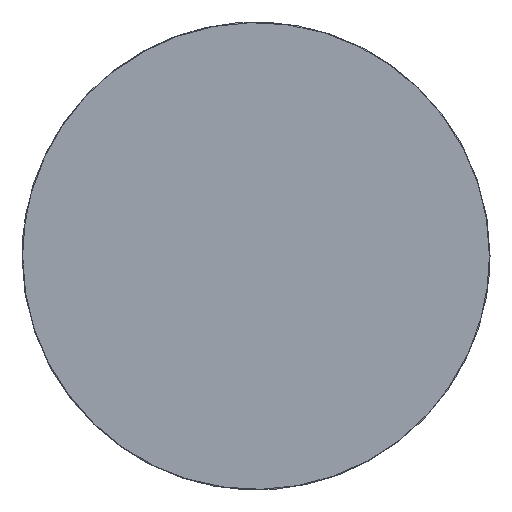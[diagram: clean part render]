
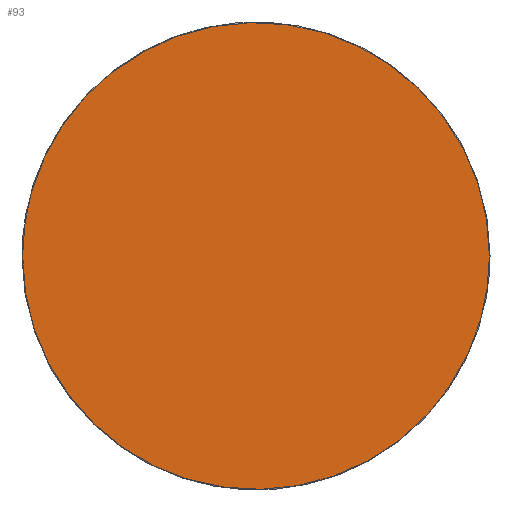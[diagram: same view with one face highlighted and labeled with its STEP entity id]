
A CAD part, top view. The second image highlights one B-rep face of the part: STEP entity #93.
In plain terms, the highlighted planar face has unit normal (0, 0, 1).
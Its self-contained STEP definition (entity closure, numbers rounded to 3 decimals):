
#33=PLANE('',#712);
#93=ADVANCED_FACE('',(#139),#33,.T.);
#139=FACE_OUTER_BOUND('',#185,.T.);
#185=EDGE_LOOP('',(#365,#366));
#365=ORIENTED_EDGE('',*,*,#477,.T.);
#366=ORIENTED_EDGE('',*,*,#484,.T.);
#477=EDGE_CURVE('',#642,#646,#578,.T.);
#484=EDGE_CURVE('',#646,#642,#582,.T.);
#578=B_SPLINE_CURVE_WITH_KNOTS('',3,(#3843,#3844,#3845,#3846,#3847,#3848,
#3849,#3850,#3851,#3852,#3853,#3854,#3855,#3856,#3857,#3858,#3859,#3860,
#3861,#3862,#3863,#3864,#3865,#3866,#3867,#3868),.UNSPECIFIED.,.F.,.F.,
(4,1,1,1,1,1,1,1,1,1,1,1,1,1,1,1,1,1,1,1,1,1,1,4),(0.,68.435,
140.983,216.556,293.739,370.922,446.495,
519.042,587.478,655.913,692.187,728.46,
766.247,804.034,842.625,881.216,900.512,
919.808,958.399,996.186,1033.973,1106.52,
1140.737,1174.955),.UNSPECIFIED.);
#582=B_SPLINE_CURVE_WITH_KNOTS('',3,(#3928,#3929,#3930,#3931,#3932,#3933,
#3934,#3935,#3936,#3937,#3938,#3939,#3940,#3941,#3942,#3943,#3944,#3945,
#3946,#3947,#3948,#3949,#3950,#3951,#3952,#3953,#3954,#3955,#3956,#3957,
#3958,#3959,#3960,#3961,#3962,#3963,#3964,#3965,#3966,#3967,#3968,#3969,
#3970),.UNSPECIFIED.,.F.,.F.,(4,1,1,1,1,1,1,1,1,1,1,1,1,1,1,1,1,1,1,1,1,
1,1,1,1,1,1,1,1,1,1,1,1,1,1,1,1,1,1,1,4),(1174.955,1209.173,
1243.391,1279.664,1315.938,1334.831,1353.724,
1372.618,1391.511,1410.807,1430.103,1468.694,
1507.285,1545.877,1583.663,1621.45,1657.724,
1693.997,1728.215,1762.433,1796.65,1830.868,
1867.142,1903.415,1941.202,1978.989,1998.284,
2017.58,2056.172,2075.467,2094.763,2114.059,
2133.354,2171.141,2208.928,2227.065,2245.201,
2263.338,2281.475,2315.693,2349.91),
 .UNSPECIFIED.);
#642=VERTEX_POINT('',#3796);
#646=VERTEX_POINT('',#3800);
#712=AXIS2_PLACEMENT_3D('',#3506,#721,$);
#721=DIRECTION('',(0.,0.,1.));
#3506=CARTESIAN_POINT('',(-468.75,-468.75,357.));
#3796=CARTESIAN_POINT('',(374.,0.,357.));
#3800=CARTESIAN_POINT('',(-374.,0.,357.));
#3843=CARTESIAN_POINT('',(374.,0.,357.));
#3844=CARTESIAN_POINT('',(374.001,22.811,357.));
#3845=CARTESIAN_POINT('',(369.689,69.806,357.));
#3846=CARTESIAN_POINT('',(349.65,139.508,357.));
#3847=CARTESIAN_POINT('',(314.927,206.533,357.));
#3848=CARTESIAN_POINT('',(266.342,266.342,357.));
#3849=CARTESIAN_POINT('',(206.533,314.927,357.));
#3850=CARTESIAN_POINT('',(139.508,349.649,357.));
#3851=CARTESIAN_POINT('',(69.806,369.689,357.));
#3852=CARTESIAN_POINT('',(0.,376.093,357.));
#3853=CARTESIAN_POINT('',(-57.715,370.798,357.));
#3854=CARTESIAN_POINT('',(-103.509,360.,357.));
#3855=CARTESIAN_POINT('',(-138.362,348.124,357.));
#3856=CARTESIAN_POINT('',(-172.332,332.647,357.));
#3857=CARTESIAN_POINT('',(-205.237,313.434,357.));
#3858=CARTESIAN_POINT('',(-236.23,290.806,357.));
#3859=CARTESIAN_POINT('',(-260.145,269.241,357.));
#3860=CARTESIAN_POINT('',(-277.867,250.579,357.));
#3861=CARTESIAN_POINT('',(-294.604,231.028,357.));
#3862=CARTESIAN_POINT('',(-313.434,205.237,357.));
#3863=CARTESIAN_POINT('',(-332.646,172.331,357.));
#3864=CARTESIAN_POINT('',(-353.146,127.345,357.));
#3865=CARTESIAN_POINT('',(-366.523,80.819,357.));
#3866=CARTESIAN_POINT('',(-372.955,34.217,357.));
#3867=CARTESIAN_POINT('',(-374.,11.406,357.));
#3868=CARTESIAN_POINT('',(-374.,0.,357.));
#3928=CARTESIAN_POINT('',(-374.,0.,357.));
#3929=CARTESIAN_POINT('',(-374.001,-11.406,357.));
#3930=CARTESIAN_POINT('',(-372.955,-34.218,357.));
#3931=CARTESIAN_POINT('',(-368.176,-68.829,357.));
#3932=CARTESIAN_POINT('',(-360.002,-103.509,357.));
#3933=CARTESIAN_POINT('',(-350.158,-132.394,357.));
#3934=CARTESIAN_POINT('',(-340.49,-155.117,357.));
#3935=CARTESIAN_POINT('',(-332.224,-172.113,357.));
#3936=CARTESIAN_POINT('',(-323.109,-188.669,357.));
#3937=CARTESIAN_POINT('',(-313.099,-204.858,357.));
#3938=CARTESIAN_POINT('',(-302.2,-220.625,357.));
#3939=CARTESIAN_POINT('',(-286.494,-241.013,357.));
#3940=CARTESIAN_POINT('',(-264.928,-264.928,357.));
#3941=CARTESIAN_POINT('',(-236.23,-290.807,357.));
#3942=CARTESIAN_POINT('',(-205.237,-313.434,357.));
#3943=CARTESIAN_POINT('',(-172.332,-332.648,357.));
#3944=CARTESIAN_POINT('',(-138.362,-348.124,357.));
#3945=CARTESIAN_POINT('',(-103.509,-360.002,357.));
#3946=CARTESIAN_POINT('',(-68.829,-368.176,357.));
#3947=CARTESIAN_POINT('',(-34.218,-372.956,357.));
#3948=CARTESIAN_POINT('',(0.,-374.522,357.));
#3949=CARTESIAN_POINT('',(34.218,-372.956,357.));
#3950=CARTESIAN_POINT('',(68.829,-368.176,357.));
#3951=CARTESIAN_POINT('',(103.509,-360.002,357.));
#3952=CARTESIAN_POINT('',(138.361,-348.124,357.));
#3953=CARTESIAN_POINT('',(172.332,-332.648,357.));
#3954=CARTESIAN_POINT('',(199.675,-316.682,357.));
#3955=CARTESIAN_POINT('',(220.625,-302.2,357.));
#3956=CARTESIAN_POINT('',(241.013,-286.494,357.));
#3957=CARTESIAN_POINT('',(260.145,-269.241,357.));
#3958=CARTESIAN_POINT('',(277.867,-250.579,357.));
#3959=CARTESIAN_POINT('',(290.42,-235.916,357.));
#3960=CARTESIAN_POINT('',(302.2,-220.625,357.));
#3961=CARTESIAN_POINT('',(316.681,-199.676,357.));
#3962=CARTESIAN_POINT('',(332.647,-172.332,357.));
#3963=CARTESIAN_POINT('',(345.614,-143.87,357.));
#3964=CARTESIAN_POINT('',(354.144,-120.696,357.));
#3965=CARTESIAN_POINT('',(359.579,-103.387,357.));
#3966=CARTESIAN_POINT('',(364.167,-85.835,357.));
#3967=CARTESIAN_POINT('',(369.004,-62.834,357.));
#3968=CARTESIAN_POINT('',(372.956,-34.218,357.));
#3969=CARTESIAN_POINT('',(373.999,-11.406,357.));
#3970=CARTESIAN_POINT('',(374.,0.,357.));
